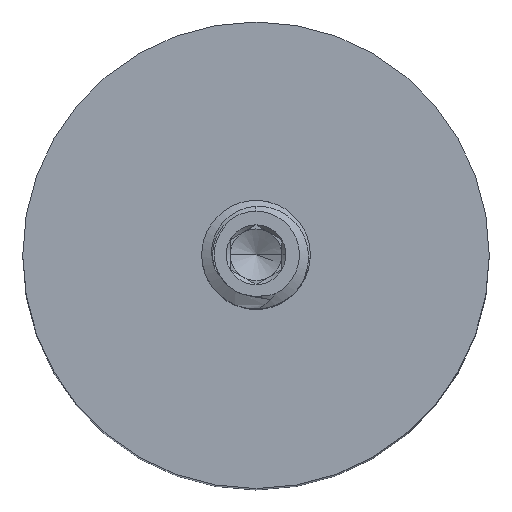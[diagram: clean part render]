
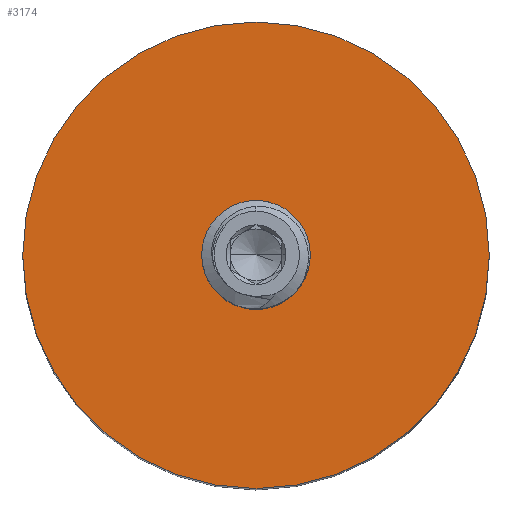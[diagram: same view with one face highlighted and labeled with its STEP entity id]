
A CAD part, top view. The second image highlights one B-rep face of the part: STEP entity #3174.
In plain terms, the highlighted planar face has unit normal (0, 0, 1).
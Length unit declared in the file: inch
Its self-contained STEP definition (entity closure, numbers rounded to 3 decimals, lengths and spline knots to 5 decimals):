
#93 = CIRCLE ( 'NONE', #5458, 0.068 ) ;
#182 = DIRECTION ( 'NONE',  ( 0., 0., 1. ) ) ;
#375 = EDGE_CURVE ( 'NONE', #2210, #5306, #8218, .T. ) ;
#1146 = CARTESIAN_POINT ( 'NONE',  ( 0.42605, 0.61724, 1.66559 ) ) ;
#1198 = CARTESIAN_POINT ( 'NONE',  ( 0.35805, 0.61724, 1.66559 ) ) ;
#1213 = AXIS2_PLACEMENT_3D ( 'NONE', #1198, #5643, #1828 ) ;
#1267 = EDGE_LOOP ( 'NONE', ( #5605, #4251 ) ) ;
#1276 = PLANE ( 'NONE',  #5345 ) ;
#1414 = FACE_OUTER_BOUND ( 'NONE', #5244, .T. ) ;
#1698 = CARTESIAN_POINT ( 'NONE',  ( 0.35805, 0.61724, 1.66559 ) ) ;
#1711 = ORIENTED_EDGE ( 'NONE', *, *, #375, .T. ) ;
#1828 = DIRECTION ( 'NONE',  ( 1., 0., 0. ) ) ;
#2210 = VERTEX_POINT ( 'NONE', #7463 ) ;
#2341 = DIRECTION ( 'NONE',  ( 1., 0., 0. ) ) ;
#2352 = DIRECTION ( 'NONE',  ( 0., 0., 1. ) ) ;
#3027 = VERTEX_POINT ( 'NONE', #1146 ) ;
#3174 = ADVANCED_FACE ( 'NONE', ( #4789, #1414 ), #1276, .F. ) ;
#3827 = DIRECTION ( 'NONE',  ( -1., 0., 0. ) ) ;
#3998 = CARTESIAN_POINT ( 'NONE',  ( 0.35805, 0.61724, 1.66559 ) ) ;
#4026 = CIRCLE ( 'NONE', #5186, 0.3525 ) ;
#4251 = ORIENTED_EDGE ( 'NONE', *, *, #6843, .F. ) ;
#4286 = EDGE_CURVE ( 'NONE', #3027, #7783, #93, .T. ) ;
#4639 = DIRECTION ( 'NONE',  ( 1., 0., 0. ) ) ;
#4789 = FACE_BOUND ( 'NONE', #1267, .T. ) ;
#5186 = AXIS2_PLACEMENT_3D ( 'NONE', #1698, #6154, #2341 ) ;
#5244 = EDGE_LOOP ( 'NONE', ( #1711, #5499 ) ) ;
#5306 = VERTEX_POINT ( 'NONE', #8252 ) ;
#5345 = AXIS2_PLACEMENT_3D ( 'NONE', #5715, #7641, #3827 ) ;
#5458 = AXIS2_PLACEMENT_3D ( 'NONE', #6164, #2352, #6796 ) ;
#5499 = ORIENTED_EDGE ( 'NONE', *, *, #6576, .T. ) ;
#5605 = ORIENTED_EDGE ( 'NONE', *, *, #4286, .F. ) ;
#5607 = CARTESIAN_POINT ( 'NONE',  ( 0.29005, 0.61724, 1.66559 ) ) ;
#5643 = DIRECTION ( 'NONE',  ( 0., 0., 1. ) ) ;
#5715 = CARTESIAN_POINT ( 'NONE',  ( 0.35805, 0.61724, 1.66559 ) ) ;
#6154 = DIRECTION ( 'NONE',  ( 0., 0., 1. ) ) ;
#6164 = CARTESIAN_POINT ( 'NONE',  ( 0.35805, 0.61724, 1.66559 ) ) ;
#6576 = EDGE_CURVE ( 'NONE', #5306, #2210, #4026, .T. ) ;
#6796 = DIRECTION ( 'NONE',  ( 1., 0., 0. ) ) ;
#6806 = CIRCLE ( 'NONE', #1213, 0.068 ) ;
#6843 = EDGE_CURVE ( 'NONE', #7783, #3027, #6806, .T. ) ;
#7102 = AXIS2_PLACEMENT_3D ( 'NONE', #3998, #182, #4639 ) ;
#7463 = CARTESIAN_POINT ( 'NONE',  ( 0.71055, 0.61724, 1.66559 ) ) ;
#7641 = DIRECTION ( 'NONE',  ( 0., 0., -1. ) ) ;
#7783 = VERTEX_POINT ( 'NONE', #5607 ) ;
#8218 = CIRCLE ( 'NONE', #7102, 0.3525 ) ;
#8252 = CARTESIAN_POINT ( 'NONE',  ( 0.00555, 0.61724, 1.66559 ) ) ;
